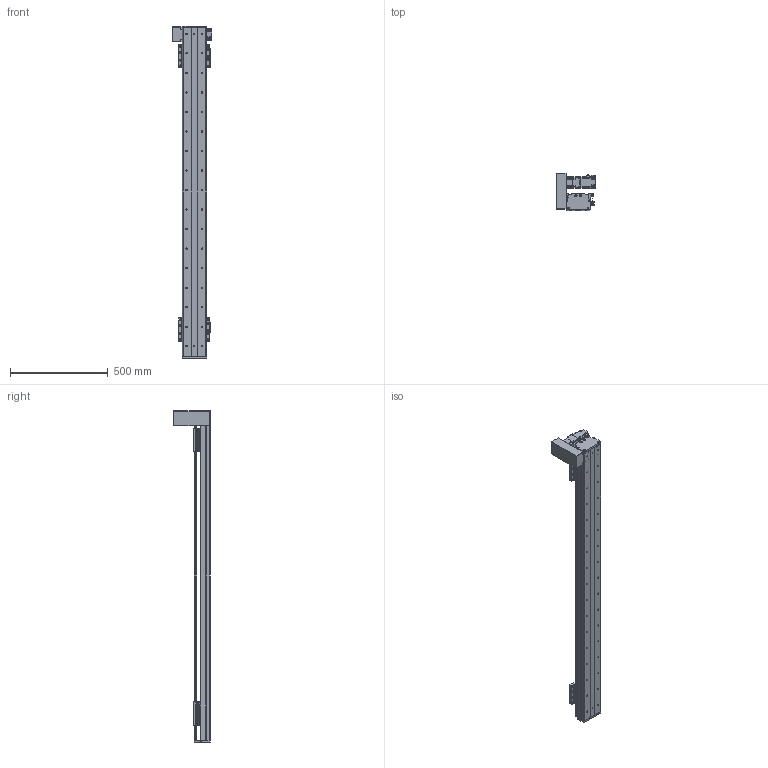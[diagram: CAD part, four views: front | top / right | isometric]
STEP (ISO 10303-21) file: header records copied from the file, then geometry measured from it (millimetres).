
FILE_DESCRIPTION(/* description */ (''),/* implementation_level */ '2;1');
FILE_NAME(/* name */ 'C:\Users\PC\Desktop\3D도면\STEP\DSB125-UL2G-W1400-R.stp',/* time_stamp */ '2018-06-19T00:45:00-07:00',/* author */ ('PC'),/* organization */ (''),/* preprocessor_version */ 'ST-DEVELOPER v16.5',/* originating_system */ 'Autodesk Inventor 2017',/* authorisation */ '');
FILE_SCHEMA (('AUTOMOTIVE_DESIGN { 1 0 10303 214 3 1 1 }'));
Length unit declared in the file: millimetre
Products named in the file (12): DSB125-L-300ST; DSR125-BASE(S-TYPE); DSR125-UP COVER-R01(170203); DSR125-REAR COVER-R01(170203); DSR125-REAR COVER-R01(170203)_1; hg-kr23_; ab0601-p0401200402; 13-BELT COVER; DSR126-SENSOR DOG; SENSOR BRACKET(EE-SX674A); pm-y65_step; DSR125-TABLE(MSA15X)
Assembly tree (16 placements, depth 2):
  DSB125-L-300ST
    DSR125-BASE(S-TYPE)
    DSR125-UP COVER-R01(170203)
    DSR125-REAR COVER-R01(170203)
    DSR125-REAR COVER-R01(170203)_1
    hg-kr23_
    ab0601-p0401200402
    13-BELT COVER
    DSR126-SENSOR DOG
    SENSOR BRACKET(EE-SX674A)  x3
    pm-y65_step  x3
    DSR125-TABLE(MSA15X)  x2
Bounding box: 202.1 x 187 x 1700 mm (x, y, z)
Volume: 5941662 mm3; surface area: 1710044.6 mm2
Topology: 17 solids, 22 shells, 1689 faces, 4571 edges, 3012 vertices
Faces by surface type: plane 908, cylinder 645, cone 124, sphere 8, torus 4
Full cylindrical faces by diameter (mm): 2.459 x20, 3.242 x16, 3.5 x6, 4 x1, 4.134 x16, 4.2 x4, 4.3 x1, 4.5 x50, 4.917 x20, 5 x27, 5.3 x1, 5.5 x4, 5.6 x8, 5.8 x4, 5.9 x8, 6 x4, 6.6 x22, 6.647 x34, 7.5 x32, 8.5 x8, 8.7 x1, 11 x22, 14 x1, 16 x2, 17 x1, 20 x1, 47 x1, 50 x3
Entity records: 35910 total; most frequent: CARTESIAN_POINT 6583, DIRECTION 6236, ORIENTED_EDGE 5534, EDGE_CURVE 2772, AXIS2_PLACEMENT_3D 2306, VERTEX_POINT 1981, EDGE_LOOP 1729, LINE 1624
